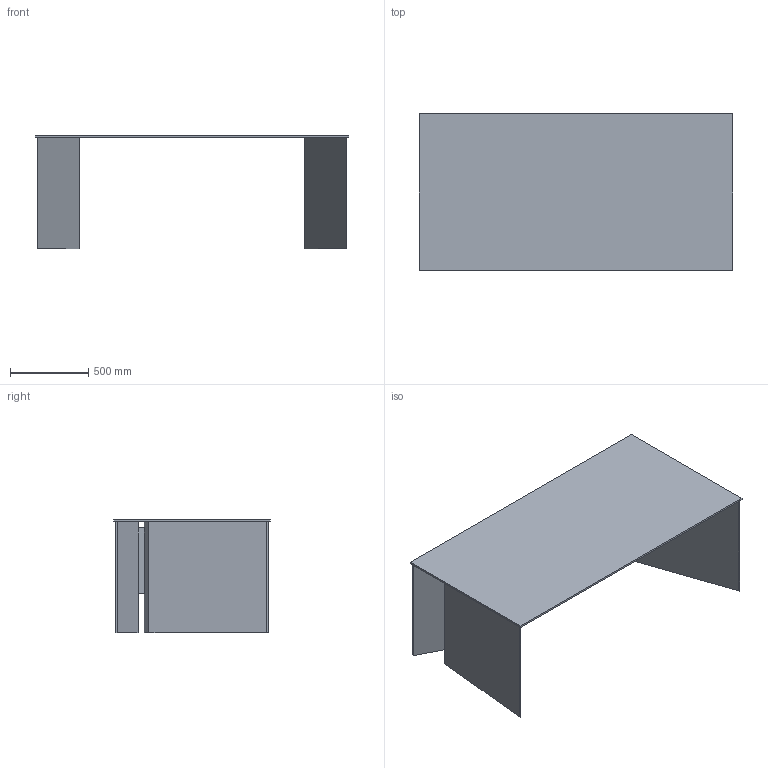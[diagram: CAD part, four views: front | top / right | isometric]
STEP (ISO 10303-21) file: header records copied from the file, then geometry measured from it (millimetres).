
FILE_DESCRIPTION(/* description */ (''),/* implementation_level */ '2;1');
FILE_NAME(/* name */ 'S1339 - Luminare Scrivania 200x100',/* time_stamp */ '2010-12-10T09:51:54+01:00',/* author */ (''),/* organization */ (''),/* preprocessor_version */ 'ST-DEVELOPER v10',/* originating_system */ '',/* authorisation */ '');
FILE_SCHEMA (('CONFIG_CONTROL_DESIGN'));
Length unit declared in the file: centimetre
Products named in the file (1): 1
Bounding box: 2000 x 1000 x 726 mm (x, y, z)
Volume: 24681989.3 mm3; surface area: 8252323.7 mm2
Topology: 17 solids, 21 shells, 92 faces, 246 edges, 180 vertices
Faces by surface type: plane 54, bspline 38
Entity records: 3110 total; most frequent: CARTESIAN_POINT 1682, ORIENTED_EDGE 312, EDGE_CURVE 174, VERTEX_POINT 116, B_SPLINE_CURVE_WITH_KNOTS 114, ADVANCED_FACE 92, FACE_OUTER_BOUND 92, EDGE_LOOP 92
